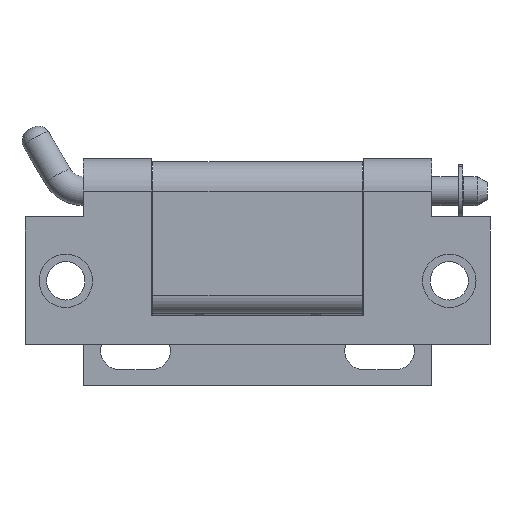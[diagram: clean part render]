
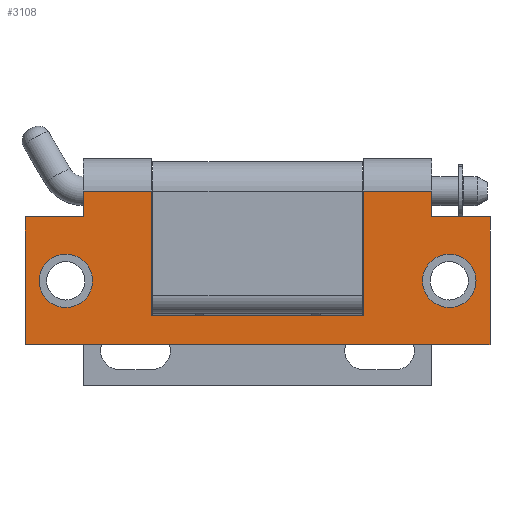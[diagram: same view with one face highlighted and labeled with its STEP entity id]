
A CAD part, top view. The second image highlights one B-rep face of the part: STEP entity #3108.
In plain terms, the highlighted planar face has unit normal (0, 0, 1).
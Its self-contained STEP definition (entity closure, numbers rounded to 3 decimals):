
#27 = AXIS2_PLACEMENT_3D ( 'NONE', #51, #50, #49 ) ;
#28 = CARTESIAN_POINT ( 'NONE',  ( 80., 22., 3. ) ) ;
#49 = DIRECTION ( 'NONE',  ( 1., 0., 0. ) ) ;
#50 = DIRECTION ( 'NONE',  ( 0., 0., 1. ) ) ;
#51 = CARTESIAN_POINT ( 'NONE',  ( 73., 11., 3. ) ) ;
#62 = CIRCLE ( 'NONE', #27, 4.6 ) ;
#63 = CARTESIAN_POINT ( 'NONE',  ( 2.4, 11., 3. ) ) ;
#91 = LINE ( 'NONE', #97, #103 ) ;
#94 = DIRECTION ( 'NONE',  ( 0., -1., 0. ) ) ;
#95 = VECTOR ( 'NONE', #94, 1000. ) ;
#96 = CARTESIAN_POINT ( 'NONE',  ( 10., 69.712, 3. ) ) ;
#97 = CARTESIAN_POINT ( 'NONE',  ( 58.25, 65., 3. ) ) ;
#102 = DIRECTION ( 'NONE',  ( 0., -1., 0. ) ) ;
#103 = VECTOR ( 'NONE', #102, 1000. ) ;
#104 = LINE ( 'NONE', #96, #95 ) ;
#108 = DIRECTION ( 'NONE',  ( -1., 0., 0. ) ) ;
#110 = CARTESIAN_POINT ( 'NONE',  ( 21.75, 26.45, 3. ) ) ;
#111 = CARTESIAN_POINT ( 'NONE',  ( 10., 26.45, 3. ) ) ;
#112 = DIRECTION ( 'NONE',  ( 0., 1., 0. ) ) ;
#115 = DIRECTION ( 'NONE',  ( -1., 0., 0. ) ) ;
#118 = LINE ( 'NONE', #121, #129 ) ;
#119 = VECTOR ( 'NONE', #108, 1000. ) ;
#121 = CARTESIAN_POINT ( 'NONE',  ( 21.75, 65., 3. ) ) ;
#123 = CARTESIAN_POINT ( 'NONE',  ( 10., 22., 3. ) ) ;
#125 = LINE ( 'NONE', #123, #119 ) ;
#126 = LINE ( 'NONE', #133, #132 ) ;
#129 = VECTOR ( 'NONE', #112, 1000. ) ;
#132 = VECTOR ( 'NONE', #115, 1000. ) ;
#133 = CARTESIAN_POINT ( 'NONE',  ( 80., 26.45, 3. ) ) ;
#633 = CARTESIAN_POINT ( 'NONE',  ( 77.6, 11., 3. ) ) ;
#640 = CARTESIAN_POINT ( 'NONE',  ( 80., 0., 3. ) ) ;
#658 = DIRECTION ( 'NONE',  ( 0., -1., 0. ) ) ;
#659 = VECTOR ( 'NONE', #658, 1000. ) ;
#660 = CARTESIAN_POINT ( 'NONE',  ( 0., 0., 3. ) ) ;
#663 = LINE ( 'NONE', #737, #659 ) ;
#664 = CARTESIAN_POINT ( 'NONE',  ( 0., 22., 3. ) ) ;
#671 = DIRECTION ( 'NONE',  ( 0., 1., 0. ) ) ;
#672 = VECTOR ( 'NONE', #671, 1000. ) ;
#673 = CARTESIAN_POINT ( 'NONE',  ( 80., 0., 3. ) ) ;
#676 = FACE_OUTER_BOUND ( 'NONE', #3139, .T. ) ;
#678 = FACE_BOUND ( 'NONE', #3146, .T. ) ;
#684 = DIRECTION ( 'NONE',  ( 1., 0., 0. ) ) ;
#685 = DIRECTION ( 'NONE',  ( 0., 0., 1. ) ) ;
#686 = PLANE ( 'NONE',  #723 ) ;
#688 = LINE ( 'NONE', #673, #672 ) ;
#691 = FACE_BOUND ( 'NONE', #3104, .T. ) ;
#694 = VECTOR ( 'NONE', #734, 1000. ) ;
#695 = CARTESIAN_POINT ( 'NONE',  ( 0., 0., 3. ) ) ;
#696 = LINE ( 'NONE', #695, #694 ) ;
#697 = DIRECTION ( 'NONE',  ( 0., 0., 1. ) ) ;
#699 = CARTESIAN_POINT ( 'NONE',  ( 0., 0., 3. ) ) ;
#700 = CARTESIAN_POINT ( 'NONE',  ( 68.4, 11., 3. ) ) ;
#707 = CIRCLE ( 'NONE', #714, 4.6 ) ;
#714 = AXIS2_PLACEMENT_3D ( 'NONE', #717, #685, #684 ) ;
#717 = CARTESIAN_POINT ( 'NONE',  ( 73., 11., 3. ) ) ;
#719 = DIRECTION ( 'NONE',  ( 1., 0., 0. ) ) ;
#723 = AXIS2_PLACEMENT_3D ( 'NONE', #699, #697, #719 ) ;
#724 = DIRECTION ( 'NONE',  ( -1., 0., 0. ) ) ;
#725 = DIRECTION ( 'NONE',  ( 0., 0., 1. ) ) ;
#726 = CARTESIAN_POINT ( 'NONE',  ( 7., 11., 3. ) ) ;
#727 = AXIS2_PLACEMENT_3D ( 'NONE', #726, #725, #724 ) ;
#728 = CIRCLE ( 'NONE', #727, 4.6 ) ;
#734 = DIRECTION ( 'NONE',  ( 1., 0., 0. ) ) ;
#737 = CARTESIAN_POINT ( 'NONE',  ( 0., 26.45, 3. ) ) ;
#1349 = CARTESIAN_POINT ( 'NONE',  ( 58.25, 5., 3. ) ) ;
#1350 = LINE ( 'NONE', #1349, #1414 ) ;
#1373 = CARTESIAN_POINT ( 'NONE',  ( 11.6, 11., 3. ) ) ;
#1374 = CARTESIAN_POINT ( 'NONE',  ( 58.25, 26.45, 3. ) ) ;
#1383 = CARTESIAN_POINT ( 'NONE',  ( 10., 22., 3. ) ) ;
#1385 = DIRECTION ( 'NONE',  ( -1., 0., 0. ) ) ;
#1388 = DIRECTION ( 'NONE',  ( 0., 0., 1. ) ) ;
#1389 = CARTESIAN_POINT ( 'NONE',  ( 7., 11., 3. ) ) ;
#1390 = AXIS2_PLACEMENT_3D ( 'NONE', #1389, #1388, #1385 ) ;
#1396 = CIRCLE ( 'NONE', #1390, 4.6 ) ;
#1409 = CARTESIAN_POINT ( 'NONE',  ( 58.25, 5., 3. ) ) ;
#1411 = CARTESIAN_POINT ( 'NONE',  ( 21.75, 5., 3. ) ) ;
#1413 = DIRECTION ( 'NONE',  ( -1., 0., 0. ) ) ;
#1414 = VECTOR ( 'NONE', #1413, 1000. ) ;
#1584 = DIRECTION ( 'NONE',  ( -1., 0., 0. ) ) ;
#1585 = VECTOR ( 'NONE', #1584, 1000. ) ;
#1588 = LINE ( 'NONE', #1600, #1585 ) ;
#1600 = CARTESIAN_POINT ( 'NONE',  ( 80., 26.45, 3. ) ) ;
#2261 = DIRECTION ( 'NONE',  ( 0., 1., 0. ) ) ;
#2269 = VECTOR ( 'NONE', #2261, 1000. ) ;
#2270 = CARTESIAN_POINT ( 'NONE',  ( 70., 69.712, 3. ) ) ;
#2279 = LINE ( 'NONE', #2270, #2269 ) ;
#2486 = CARTESIAN_POINT ( 'NONE',  ( 70., 26.45, 3. ) ) ;
#2499 = CARTESIAN_POINT ( 'NONE',  ( 70., 22., 3. ) ) ;
#2509 = VECTOR ( 'NONE', #2519, 1000. ) ;
#2510 = CARTESIAN_POINT ( 'NONE',  ( 70., 22., 3. ) ) ;
#2519 = DIRECTION ( 'NONE',  ( -1., 0., 0. ) ) ;
#2539 = LINE ( 'NONE', #2510, #2509 ) ;
#3073 = VERTEX_POINT ( 'NONE', #640 ) ;
#3090 = VERTEX_POINT ( 'NONE', #660 ) ;
#3095 = EDGE_CURVE ( 'NONE', #3097, #3090, #663, .T. ) ;
#3097 = VERTEX_POINT ( 'NONE', #664 ) ;
#3101 = EDGE_CURVE ( 'NONE', #3090, #3073, #696, .T. ) ;
#3104 = EDGE_LOOP ( 'NONE', ( #3105, #3110 ) ) ;
#3105 = ORIENTED_EDGE ( 'NONE', *, *, #3107, .F. ) ;
#3107 = EDGE_CURVE ( 'NONE', #3178, #3136, #728, .T. ) ;
#3108 = ADVANCED_FACE ( 'NONE', ( #691, #678, #676 ), #686, .T. ) ;
#3109 = ORIENTED_EDGE ( 'NONE', *, *, #3147, .F. ) ;
#3110 = ORIENTED_EDGE ( 'NONE', *, *, #3192, .F. ) ;
#3111 = EDGE_CURVE ( 'NONE', #3073, #3143, #688, .T. ) ;
#3116 = VERTEX_POINT ( 'NONE', #700 ) ;
#3117 = EDGE_CURVE ( 'NONE', #3116, #3122, #707, .T. ) ;
#3122 = VERTEX_POINT ( 'NONE', #633 ) ;
#3136 = VERTEX_POINT ( 'NONE', #63 ) ;
#3139 = EDGE_LOOP ( 'NONE', ( #3187, #3152, #3162, #3191, #3160, #3190, #4186, #4206, #4222, #4194, #4193, #4205 ) ) ;
#3143 = VERTEX_POINT ( 'NONE', #28 ) ;
#3146 = EDGE_LOOP ( 'NONE', ( #3109, #3165 ) ) ;
#3147 = EDGE_CURVE ( 'NONE', #3122, #3116, #62, .T. ) ;
#3149 = EDGE_CURVE ( 'NONE', #3176, #3186, #91, .T. ) ;
#3150 = EDGE_CURVE ( 'NONE', #3155, #3175, #104, .T. ) ;
#3151 = EDGE_CURVE ( 'NONE', #3175, #3097, #125, .T. ) ;
#3152 = ORIENTED_EDGE ( 'NONE', *, *, #3177, .T. ) ;
#3154 = EDGE_CURVE ( 'NONE', #3156, #3155, #126, .T. ) ;
#3155 = VERTEX_POINT ( 'NONE', #111 ) ;
#3156 = VERTEX_POINT ( 'NONE', #110 ) ;
#3157 = EDGE_CURVE ( 'NONE', #3185, #3156, #118, .T. ) ;
#3160 = ORIENTED_EDGE ( 'NONE', *, *, #3150, .T. ) ;
#3162 = ORIENTED_EDGE ( 'NONE', *, *, #3157, .T. ) ;
#3165 = ORIENTED_EDGE ( 'NONE', *, *, #3117, .F. ) ;
#3175 = VERTEX_POINT ( 'NONE', #1383 ) ;
#3176 = VERTEX_POINT ( 'NONE', #1374 ) ;
#3177 = EDGE_CURVE ( 'NONE', #3186, #3185, #1350, .T. ) ;
#3178 = VERTEX_POINT ( 'NONE', #1373 ) ;
#3185 = VERTEX_POINT ( 'NONE', #1411 ) ;
#3186 = VERTEX_POINT ( 'NONE', #1409 ) ;
#3187 = ORIENTED_EDGE ( 'NONE', *, *, #3149, .T. ) ;
#3190 = ORIENTED_EDGE ( 'NONE', *, *, #3151, .T. ) ;
#3191 = ORIENTED_EDGE ( 'NONE', *, *, #3154, .T. ) ;
#3192 = EDGE_CURVE ( 'NONE', #3136, #3178, #1396, .T. ) ;
#3284 = EDGE_CURVE ( 'NONE', #4185, #3176, #1588, .T. ) ;
#4180 = EDGE_CURVE ( 'NONE', #4188, #4185, #2279, .T. ) ;
#4185 = VERTEX_POINT ( 'NONE', #2486 ) ;
#4186 = ORIENTED_EDGE ( 'NONE', *, *, #3095, .T. ) ;
#4188 = VERTEX_POINT ( 'NONE', #2499 ) ;
#4193 = ORIENTED_EDGE ( 'NONE', *, *, #4180, .T. ) ;
#4194 = ORIENTED_EDGE ( 'NONE', *, *, #4223, .T. ) ;
#4205 = ORIENTED_EDGE ( 'NONE', *, *, #3284, .T. ) ;
#4206 = ORIENTED_EDGE ( 'NONE', *, *, #3101, .T. ) ;
#4222 = ORIENTED_EDGE ( 'NONE', *, *, #3111, .T. ) ;
#4223 = EDGE_CURVE ( 'NONE', #3143, #4188, #2539, .T. ) ;
